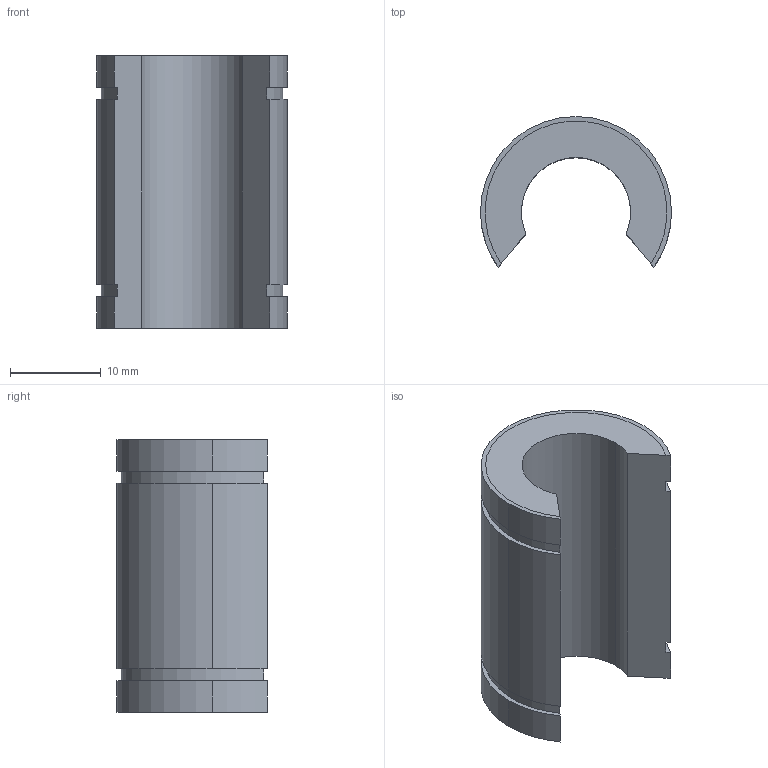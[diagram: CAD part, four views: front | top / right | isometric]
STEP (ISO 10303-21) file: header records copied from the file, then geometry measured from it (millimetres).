
FILE_DESCRIPTION((''),'2;1');
FILE_NAME('C:\Documents and Settings\ｿﾀﾀ蠑ｷ1\ｹﾙﾅﾁ ﾈｭｸ饅\ｺﾎﾇｰﾆﾄﾀﾏ\ﾁｦﾇｰ\LM__UUOP\LM12UUOP.stp','2005-06-14T16:15:15',('ｿﾀﾀ蠑ｷ1'),(''),'Autodesk Inventor 9','Autodesk Inventor 9','');
FILE_SCHEMA(('AUTOMOTIVE_DESIGN { 1 0 10303 214 1 1 1 1 }'));
Length unit declared in the file: millimetre
Products named in the file (1): LM__
Bounding box: 21 x 16.56 x 30 mm (x, y, z)
Volume: 4648.8 mm3; surface area: 2771.8 mm2
Topology: 1 solids, 1 shells, 26 faces, 72 edges, 48 vertices
Faces by surface type: cylinder 16, plane 10
Entity records: 873 total; most frequent: DIRECTION 160, CARTESIAN_POINT 147, ORIENTED_EDGE 144, EDGE_CURVE 72, AXIS2_PLACEMENT_3D 61, VERTEX_POINT 48, VECTOR 38, LINE 38
